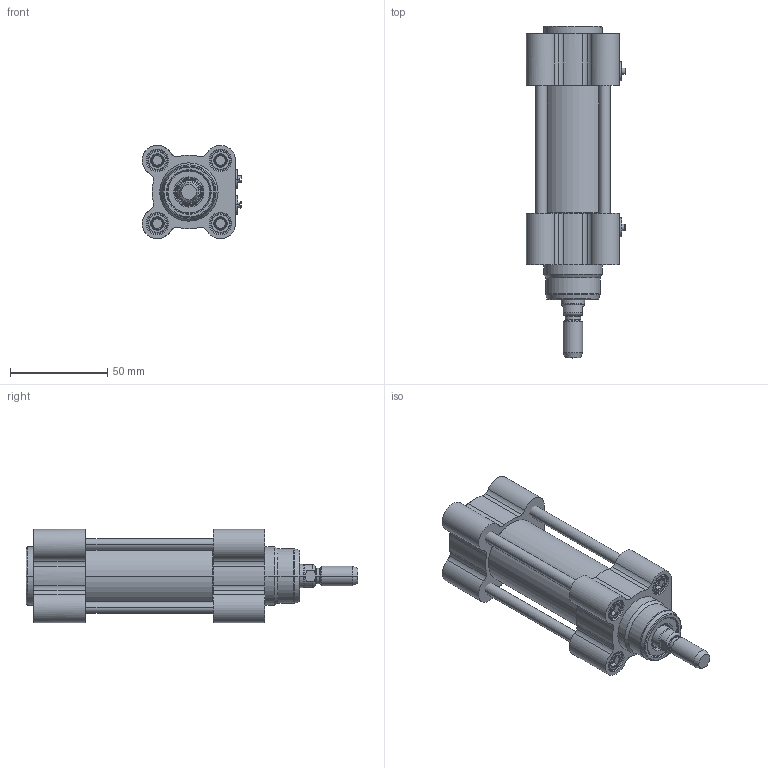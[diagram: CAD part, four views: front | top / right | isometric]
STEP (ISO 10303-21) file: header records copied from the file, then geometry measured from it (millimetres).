
FILE_DESCRIPTION (( 'STEP AP203' ), '1' );
FILE_NAME ('CTMI32-25.STEP', '2020-03-26T18:57:04', ( '' ), ( '' ), 'SwSTEP 2.0', 'SolidWorks 2019', '' );
FILE_SCHEMA (( 'CONFIG_CONTROL_DESIGN' ));
Length unit declared in the file: millimetre
Products named in the file (1): CTMI32-25
Bounding box: 51.2 x 171 x 48 mm (x, y, z)
Surface area: 64812 mm2 (no closed solid volume)
Topology: 0 solids, 27 shells, 706 faces, 1614 edges, 990 vertices
Faces by surface type: cylinder 207, cone 203, plane 192, torus 88, bspline 16
Entity records: 25729 total; most frequent: CARTESIAN_POINT 10948, ORIENTED_EDGE 3172, DIRECTION 2802, EDGE_CURVE 1614, AXIS2_PLACEMENT_3D 1166, VERTEX_POINT 990, EDGE_LOOP 776, ADVANCED_FACE 706
